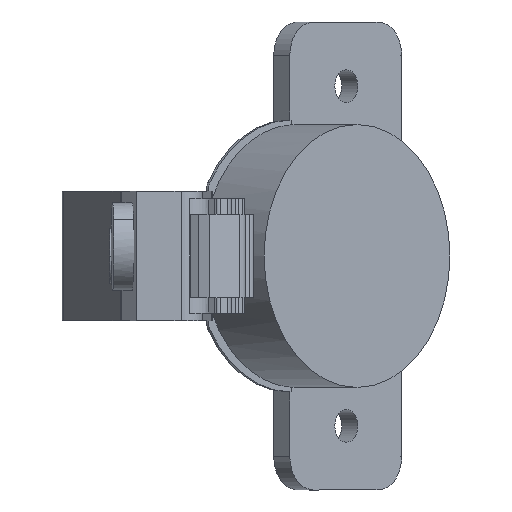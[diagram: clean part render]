
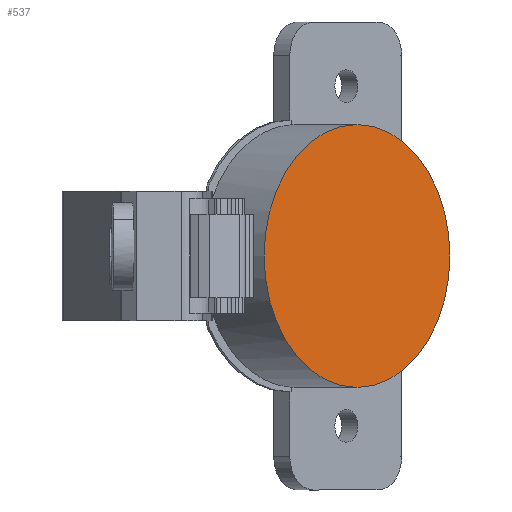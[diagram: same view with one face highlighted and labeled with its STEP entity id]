
A CAD part, left-side view. The second image highlights one B-rep face of the part: STEP entity #537.
In plain terms, the highlighted planar face has unit normal (-0.707, -0.707, 0).
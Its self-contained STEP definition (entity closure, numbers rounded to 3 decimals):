
#221 = AXIS2_PLACEMENT_3D ( 'NONE', #3725, #1926, #2505 ) ;
#286 = VERTEX_POINT ( 'NONE', #317 ) ;
#317 = CARTESIAN_POINT ( 'NONE',  ( 39.038, -18.603, -17.4 ) ) ;
#496 = DIRECTION ( 'NONE',  ( -0.707, -0.707, 0. ) ) ;
#537 = ADVANCED_FACE ( 'NONE', ( #1162 ), #3171, .F. ) ;
#554 = DIRECTION ( 'NONE',  ( 0., 0., -1. ) ) ;
#1162 = FACE_OUTER_BOUND ( 'NONE', #4010, .T. ) ;
#1787 = VERTEX_POINT ( 'NONE', #3711 ) ;
#1926 = DIRECTION ( 'NONE',  ( -0.707, -0.707, 0. ) ) ;
#2383 = ORIENTED_EDGE ( 'NONE', *, *, #3736, .T. ) ;
#2474 = DIRECTION ( 'NONE',  ( 0.707, 0.707, 0. ) ) ;
#2505 = DIRECTION ( 'NONE',  ( 0., 0., -1. ) ) ;
#2546 = CIRCLE ( 'NONE', #221, 17.4 ) ;
#2887 = EDGE_CURVE ( 'NONE', #286, #1787, #2546, .T. ) ;
#3171 = PLANE ( 'NONE',  #4994 ) ;
#3245 = CARTESIAN_POINT ( 'NONE',  ( 46.793, -26.358, -7.7 ) ) ;
#3711 = CARTESIAN_POINT ( 'NONE',  ( 39.038, -18.603, 17.4 ) ) ;
#3725 = CARTESIAN_POINT ( 'NONE',  ( 39.038, -18.603, 0. ) ) ;
#3736 = EDGE_CURVE ( 'NONE', #1787, #286, #4796, .T. ) ;
#3834 = CARTESIAN_POINT ( 'NONE',  ( 39.038, -18.603, 0. ) ) ;
#4010 = EDGE_LOOP ( 'NONE', ( #2383, #4164 ) ) ;
#4077 = DIRECTION ( 'NONE',  ( 0., 0., 1. ) ) ;
#4164 = ORIENTED_EDGE ( 'NONE', *, *, #2887, .T. ) ;
#4796 = CIRCLE ( 'NONE', #5223, 17.4 ) ;
#4994 = AXIS2_PLACEMENT_3D ( 'NONE', #3245, #2474, #4077 ) ;
#5223 = AXIS2_PLACEMENT_3D ( 'NONE', #3834, #496, #554 ) ;
